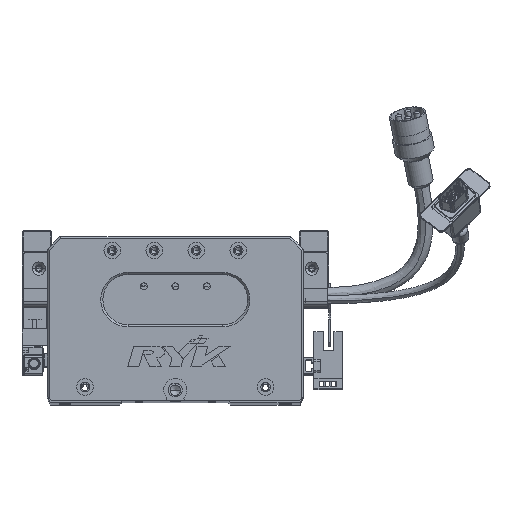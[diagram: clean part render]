
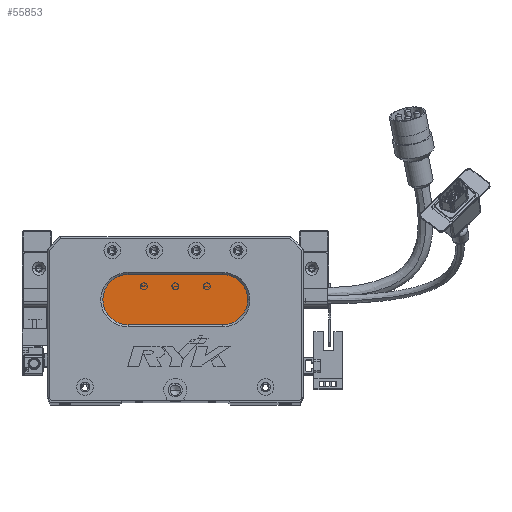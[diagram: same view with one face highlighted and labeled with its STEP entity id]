
A CAD part, top view. The second image highlights one B-rep face of the part: STEP entity #55853.
In plain terms, the highlighted planar face has unit normal (0, 0, 1) as drawn and (0, 0, -1) by its records, which use the part's own axes.
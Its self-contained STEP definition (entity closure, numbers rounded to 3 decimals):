
#3173 = AXIS2_PLACEMENT_3D ( 'NONE', #53991, #36174, #17858 ) ;
#3972 = AXIS2_PLACEMENT_3D ( 'NONE', #40081, #4440, #4703 ) ;
#4440 = DIRECTION ( 'NONE',  ( 0., 0., -1. ) ) ;
#4703 = DIRECTION ( 'NONE',  ( -1., 0., 0. ) ) ;
#6109 = LINE ( 'NONE', #55845, #31932 ) ;
#6508 = ORIENTED_EDGE ( 'NONE', *, *, #67739, .T. ) ;
#6855 = EDGE_CURVE ( 'NONE', #21288, #25918, #6109, .T. ) ;
#9361 = DIRECTION ( 'NONE',  ( 1., 0., 0. ) ) ;
#11293 = ORIENTED_EDGE ( 'NONE', *, *, #70003, .T. ) ;
#12769 = AXIS2_PLACEMENT_3D ( 'NONE', #25331, #48853, #65622 ) ;
#15188 = CARTESIAN_POINT ( 'NONE',  ( 83.5, 36., 13. ) ) ;
#15981 = DIRECTION ( 'NONE',  ( 0., 0., -1. ) ) ;
#17858 = DIRECTION ( 'NONE',  ( -1., 0., 0. ) ) ;
#20981 = VERTEX_POINT ( 'NONE', #31434 ) ;
#21288 = VERTEX_POINT ( 'NONE', #39681 ) ;
#23312 = CIRCLE ( 'NONE', #12769, 12. ) ;
#23756 = CARTESIAN_POINT ( 'NONE',  ( 83.5, 36., 13. ) ) ;
#25331 = CARTESIAN_POINT ( 'NONE',  ( 38.5, 48., 13. ) ) ;
#25918 = VERTEX_POINT ( 'NONE', #31238 ) ;
#31238 = CARTESIAN_POINT ( 'NONE',  ( 83.5, 60., 13. ) ) ;
#31434 = CARTESIAN_POINT ( 'NONE',  ( 38.5, 36., 13. ) ) ;
#31932 = VECTOR ( 'NONE', #9361, 1000. ) ;
#36174 = DIRECTION ( 'NONE',  ( 0., 0., -1. ) ) ;
#38980 = EDGE_CURVE ( 'NONE', #49661, #20981, #50588, .T. ) ;
#39681 = CARTESIAN_POINT ( 'NONE',  ( 38.5, 60., 13. ) ) ;
#40081 = CARTESIAN_POINT ( 'NONE',  ( 83.5, 48., 13. ) ) ;
#40600 = FACE_OUTER_BOUND ( 'NONE', #49019, .T. ) ;
#41074 = AXIS2_PLACEMENT_3D ( 'NONE', #67870, #15981, #62984 ) ;
#41251 = EDGE_CURVE ( 'NONE', #20981, #75122, #53193, .T. ) ;
#43361 = CARTESIAN_POINT ( 'NONE',  ( 26.5, 48., 13. ) ) ;
#47279 = ORIENTED_EDGE ( 'NONE', *, *, #41251, .T. ) ;
#48853 = DIRECTION ( 'NONE',  ( 0., 0., -1. ) ) ;
#49019 = EDGE_LOOP ( 'NONE', ( #6508, #74617, #47279, #11293, #73736 ) ) ;
#49661 = VERTEX_POINT ( 'NONE', #15188 ) ;
#50588 = LINE ( 'NONE', #23756, #60732 ) ;
#53193 = CIRCLE ( 'NONE', #3173, 12. ) ;
#53991 = CARTESIAN_POINT ( 'NONE',  ( 38.5, 48., 13. ) ) ;
#55845 = CARTESIAN_POINT ( 'NONE',  ( 83.5, 60., 13. ) ) ;
#55853 = ADVANCED_FACE ( 'NONE', ( #40600 ), #57078, .T. ) ;
#57078 = PLANE ( 'NONE',  #41074 ) ;
#60732 = VECTOR ( 'NONE', #72563, 1000. ) ;
#62984 = DIRECTION ( 'NONE',  ( -1., 0., 0. ) ) ;
#65622 = DIRECTION ( 'NONE',  ( -1., 0., 0. ) ) ;
#67739 = EDGE_CURVE ( 'NONE', #25918, #49661, #75346, .T. ) ;
#67870 = CARTESIAN_POINT ( 'NONE',  ( 83.5, 48., 13. ) ) ;
#70003 = EDGE_CURVE ( 'NONE', #75122, #21288, #23312, .T. ) ;
#72563 = DIRECTION ( 'NONE',  ( -1., 0., 0. ) ) ;
#73736 = ORIENTED_EDGE ( 'NONE', *, *, #6855, .T. ) ;
#74617 = ORIENTED_EDGE ( 'NONE', *, *, #38980, .T. ) ;
#75122 = VERTEX_POINT ( 'NONE', #43361 ) ;
#75346 = CIRCLE ( 'NONE', #3972, 12. ) ;
